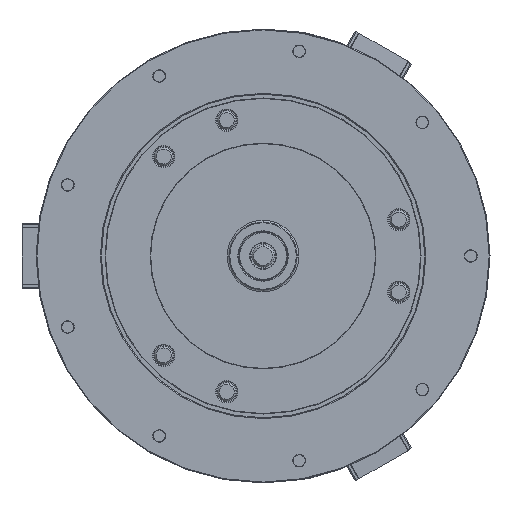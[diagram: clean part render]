
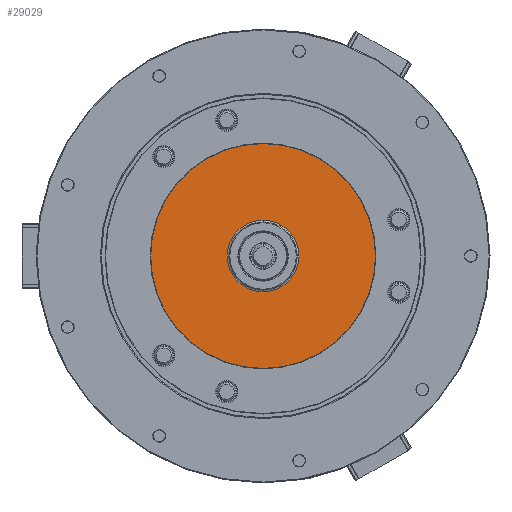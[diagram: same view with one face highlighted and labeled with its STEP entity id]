
A CAD part, left-side view. The second image highlights one B-rep face of the part: STEP entity #29029.
In plain terms, the highlighted planar face has unit normal (-1, 0, 0).
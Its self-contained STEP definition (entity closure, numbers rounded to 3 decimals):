
#1803 = AXIS2_PLACEMENT_3D ( 'NONE', #13405, #84610, #66934 ) ;
#4300 = FACE_OUTER_BOUND ( 'NONE', #32908, .T. ) ;
#5992 = DIRECTION ( 'NONE',  ( 0., 0., -1. ) ) ;
#6982 = CARTESIAN_POINT ( 'NONE',  ( -111.5, 0., -132. ) ) ;
#7169 = DIRECTION ( 'NONE',  ( 0., 0., -1. ) ) ;
#8979 = ORIENTED_EDGE ( 'NONE', *, *, #70649, .F. ) ;
#10811 = CIRCLE ( 'NONE', #85384, 42. ) ;
#13405 = CARTESIAN_POINT ( 'NONE',  ( -111.5, -42., 0. ) ) ;
#14535 = CARTESIAN_POINT ( 'NONE',  ( -111.5, 0., 0. ) ) ;
#19672 = CIRCLE ( 'NONE', #36096, 42. ) ;
#23486 = AXIS2_PLACEMENT_3D ( 'NONE', #93817, #85249, #7169 ) ;
#29029 = ADVANCED_FACE ( 'NONE', ( #4300, #83491 ), #32189, .F. ) ;
#30611 = ORIENTED_EDGE ( 'NONE', *, *, #85161, .T. ) ;
#32189 = PLANE ( 'NONE',  #1803 ) ;
#32618 = CIRCLE ( 'NONE', #23486, 132. ) ;
#32908 = EDGE_LOOP ( 'NONE', ( #8979, #51272 ) ) ;
#34496 = CARTESIAN_POINT ( 'NONE',  ( -111.5, 0., 132. ) ) ;
#36096 = AXIS2_PLACEMENT_3D ( 'NONE', #42214, #102634, #68420 ) ;
#42214 = CARTESIAN_POINT ( 'NONE',  ( -111.5, 0., 0. ) ) ;
#51227 = VERTEX_POINT ( 'NONE', #90815 ) ;
#51272 = ORIENTED_EDGE ( 'NONE', *, *, #84744, .F. ) ;
#54994 = ORIENTED_EDGE ( 'NONE', *, *, #99098, .T. ) ;
#58366 = EDGE_LOOP ( 'NONE', ( #54994, #30611 ) ) ;
#62667 = CIRCLE ( 'NONE', #92032, 132. ) ;
#66934 = DIRECTION ( 'NONE',  ( 0., 0., -1. ) ) ;
#68404 = DIRECTION ( 'NONE',  ( 1., 0., 0. ) ) ;
#68420 = DIRECTION ( 'NONE',  ( 0., 0., -1. ) ) ;
#69555 = CARTESIAN_POINT ( 'NONE',  ( -111.5, 0., 0. ) ) ;
#70649 = EDGE_CURVE ( 'NONE', #78530, #110822, #62667, .T. ) ;
#78530 = VERTEX_POINT ( 'NONE', #34496 ) ;
#80344 = VERTEX_POINT ( 'NONE', #111757 ) ;
#83491 = FACE_BOUND ( 'NONE', #58366, .T. ) ;
#84055 = DIRECTION ( 'NONE',  ( 1., 0., 0. ) ) ;
#84610 = DIRECTION ( 'NONE',  ( 1., 0., 0. ) ) ;
#84744 = EDGE_CURVE ( 'NONE', #110822, #78530, #32618, .T. ) ;
#85161 = EDGE_CURVE ( 'NONE', #80344, #51227, #19672, .T. ) ;
#85249 = DIRECTION ( 'NONE',  ( 1., 0., 0. ) ) ;
#85384 = AXIS2_PLACEMENT_3D ( 'NONE', #69555, #68404, #95221 ) ;
#90815 = CARTESIAN_POINT ( 'NONE',  ( -111.5, 0., -42. ) ) ;
#92032 = AXIS2_PLACEMENT_3D ( 'NONE', #14535, #84055, #5992 ) ;
#93817 = CARTESIAN_POINT ( 'NONE',  ( -111.5, 0., 0. ) ) ;
#95221 = DIRECTION ( 'NONE',  ( 0., 0., -1. ) ) ;
#99098 = EDGE_CURVE ( 'NONE', #51227, #80344, #10811, .T. ) ;
#102634 = DIRECTION ( 'NONE',  ( 1., 0., 0. ) ) ;
#110822 = VERTEX_POINT ( 'NONE', #6982 ) ;
#111757 = CARTESIAN_POINT ( 'NONE',  ( -111.5, 0., 42. ) ) ;
